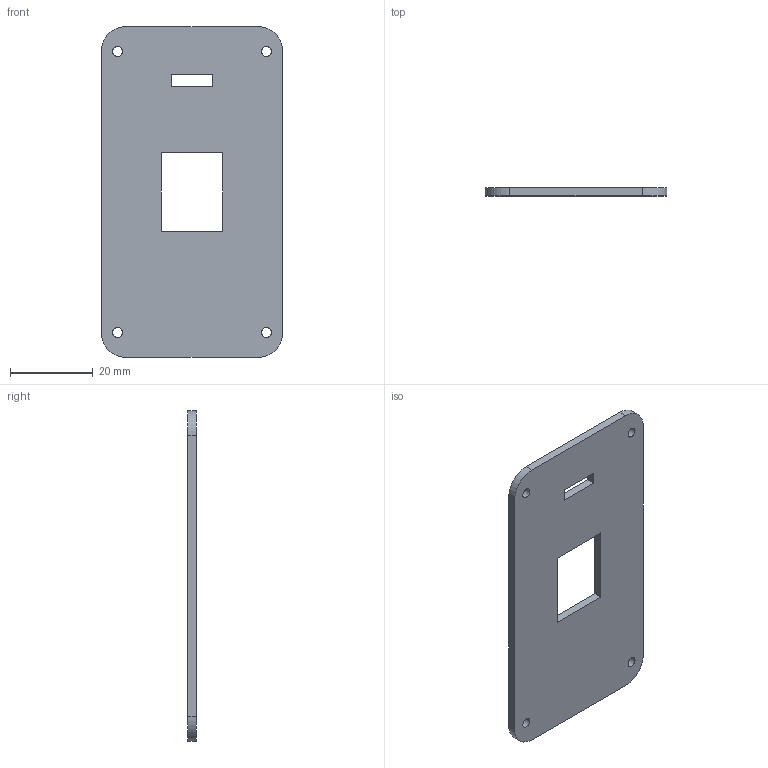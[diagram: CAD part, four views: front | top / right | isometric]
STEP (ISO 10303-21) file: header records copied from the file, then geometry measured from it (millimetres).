
FILE_DESCRIPTION(('Open CASCADE Model'),'2;1');
FILE_NAME('Open CASCADE Shape Model','2026-10-07T22:00:03',('Author'),( 'Open CASCADE'),'Open CASCADE STEP processor 7.9','Open CASCADE 7.9' ,'Unknown');
FILE_SCHEMA(('AUTOMOTIVE_DESIGN { 1 0 10303 214 1 1 1 1 }'));
Length unit declared in the file: millimetre
Products named in the file (1): Open CASCADE STEP translator 7.9 8
Bounding box: 44 x 2 x 80 mm (x, y, z)
Volume: 6312 mm3; surface area: 7035.7 mm2
Topology: 1 solids, 1 shells, 22 faces, 60 edges, 40 vertices
Faces by surface type: plane 14, cylinder 8
Full cylindrical faces by diameter (mm): 2.4 x4
Entity records: 1488 total; most frequent: CARTESIAN_POINT 287, DIRECTION 208, ORIENTED_EDGE 120, PCURVE 120, DEFINITIONAL_REPRESENTATION 120, LINE 116, VECTOR 116, EDGE_CURVE 60
